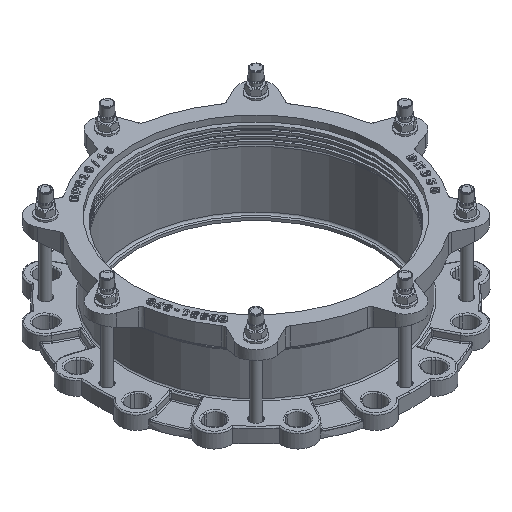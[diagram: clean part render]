
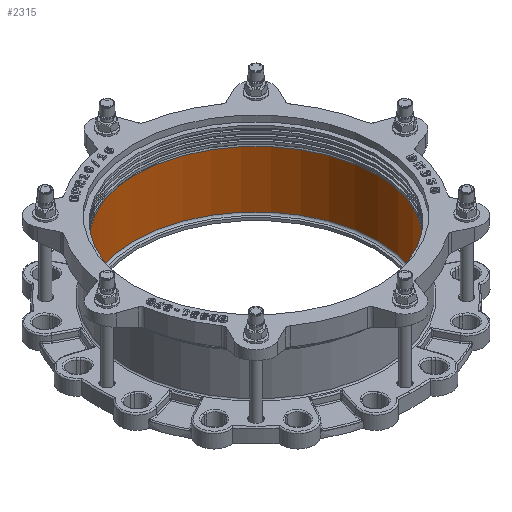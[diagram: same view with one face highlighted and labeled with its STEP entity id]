
A CAD part, isometric view. The second image highlights one B-rep face of the part: STEP entity #2315.
In plain terms, the highlighted cylindrical face has radius 189 mm (diameter 378 mm), a full revolution.
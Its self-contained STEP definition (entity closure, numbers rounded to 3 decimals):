
#2315=ADVANCED_FACE('',(#16885,#16887),#16889,.F.);
#16885=FACE_OUTER_BOUND('',#16886,.T.);
#16886=EDGE_LOOP('',(#24887));
#16887=FACE_OUTER_BOUND('',#16888,.T.);
#16888=EDGE_LOOP('',(#24888));
#16889=CYLINDRICAL_SURFACE('',#16890,189.);
#16890=AXIS2_PLACEMENT_3D('',#16891,#16892,#16893);
#16891=CARTESIAN_POINT('',(0.,0.,4.));
#16892=DIRECTION('',(0.,0.,1.));
#16893=DIRECTION('',(-1.,0.,0.));
#24887=ORIENTED_EDGE('',*,*,#31374,.F.);
#24888=ORIENTED_EDGE('',*,*,#31375,.T.);
#31374=EDGE_CURVE('',#35724,#35724,#35725,.T.);
#31375=EDGE_CURVE('',#35726,#35726,#35727,.F.);
#35724=VERTEX_POINT('',#50531);
#35725=CIRCLE('',#50532,189.);
#35726=VERTEX_POINT('',#50536);
#35727=CIRCLE('',#50537,189.);
#50531=CARTESIAN_POINT('',(0.,189.,94.5));
#50532=AXIS2_PLACEMENT_3D('',#50533,#50534,#50535);
#50533=CARTESIAN_POINT('',(0.,0.,94.5));
#50534=DIRECTION('',(0.,0.,-1.));
#50535=DIRECTION('',(0.,1.,0.));
#50536=CARTESIAN_POINT('',(0.,189.,7.));
#50537=AXIS2_PLACEMENT_3D('',#50538,#50539,#50540);
#50538=CARTESIAN_POINT('',(0.,0.,7.));
#50539=DIRECTION('',(0.,0.,1.));
#50540=DIRECTION('',(0.,1.,0.));
